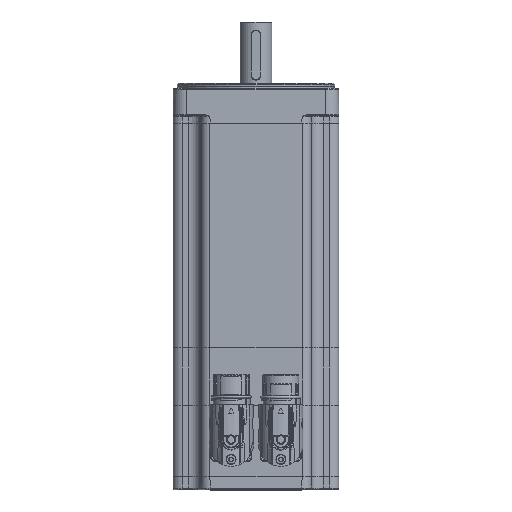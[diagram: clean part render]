
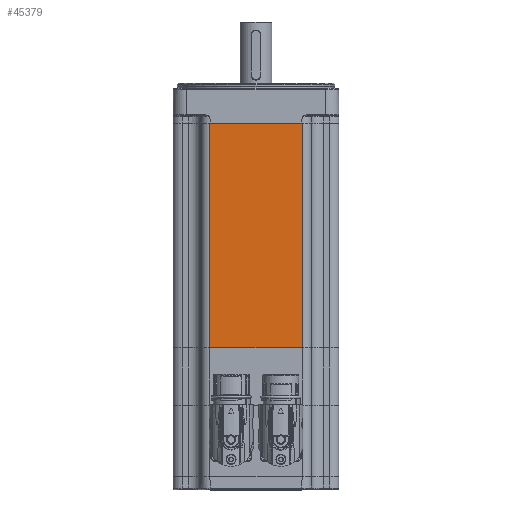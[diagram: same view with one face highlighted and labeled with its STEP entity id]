
A CAD part, top view. The second image highlights one B-rep face of the part: STEP entity #45379.
In plain terms, the highlighted planar face has unit normal (0, 0, 1).
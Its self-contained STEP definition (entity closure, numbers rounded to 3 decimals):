
#6393=ORIENTED_EDGE('',*,*,#14551,.T.);
#6394=ORIENTED_EDGE('',*,*,#14484,.T.);
#6395=ORIENTED_EDGE('',*,*,#14552,.T.);
#6396=ORIENTED_EDGE('',*,*,#14514,.T.);
#14484=EDGE_CURVE('',#18759,#18760,#22111,.T.);
#14514=EDGE_CURVE('',#18790,#18788,#22123,.T.);
#14551=EDGE_CURVE('',#18788,#18759,#22141,.T.);
#14552=EDGE_CURVE('',#18760,#18790,#22142,.T.);
#18759=VERTEX_POINT('',#63686);
#18760=VERTEX_POINT('',#63687);
#18788=VERTEX_POINT('',#63745);
#18790=VERTEX_POINT('',#63748);
#22111=LINE('',#63685,#24110);
#22123=LINE('',#63747,#24122);
#22141=LINE('',#63825,#24140);
#22142=LINE('',#63826,#24141);
#24110=VECTOR('',#52450,1000.);
#24122=VECTOR('',#52500,1000.);
#24140=VECTOR('',#52578,1000.);
#24141=VECTOR('',#52579,1000.);
#25765=EDGE_LOOP('',(#6393,#6394,#6395,#6396));
#28506=FACE_BOUND('',#25765,.T.);
#31060=PLANE('',#47634);
#45379=ADVANCED_FACE('',(#28506),#31060,.T.);
#47634=AXIS2_PLACEMENT_3D('',#63824,#52576,#52577);
#52450=DIRECTION('',(-1.,0.,0.));
#52500=DIRECTION('',(1.,0.,0.));
#52576=DIRECTION('',(0.,0.,1.));
#52577=DIRECTION('',(1.,0.,0.));
#52578=DIRECTION('',(0.,1.,0.));
#52579=DIRECTION('',(0.,-1.,0.));
#63685=CARTESIAN_POINT('',(50.,136.5,50.));
#63686=CARTESIAN_POINT('',(27.75,136.5,50.));
#63687=CARTESIAN_POINT('',(-27.75,136.5,50.));
#63745=CARTESIAN_POINT('',(27.75,1.,50.));
#63747=CARTESIAN_POINT('',(50.,1.,50.));
#63748=CARTESIAN_POINT('',(-27.75,1.,50.));
#63824=CARTESIAN_POINT('',(50.,200.,50.));
#63825=CARTESIAN_POINT('',(27.75,200.,50.));
#63826=CARTESIAN_POINT('',(-27.75,200.,50.));
